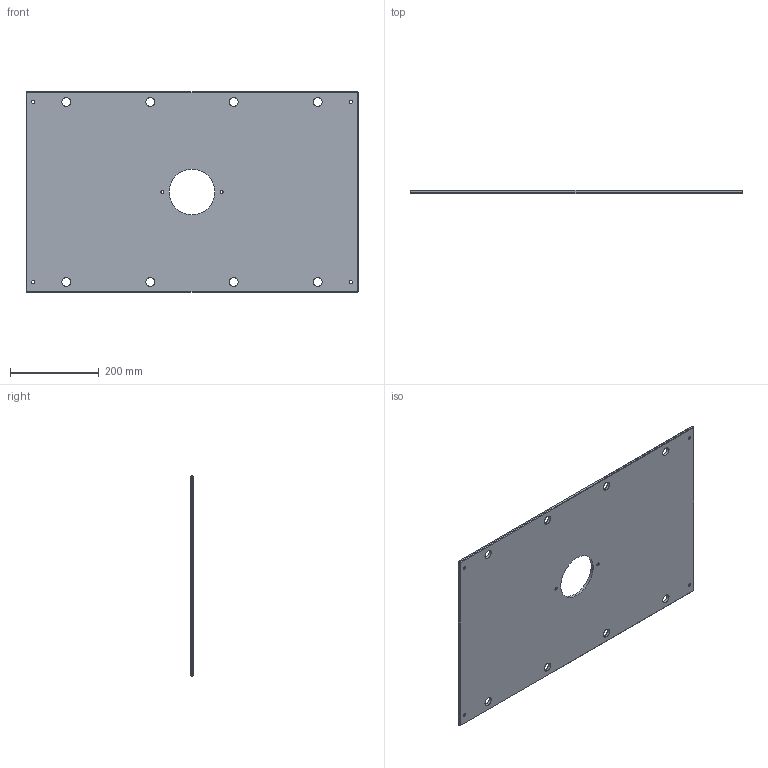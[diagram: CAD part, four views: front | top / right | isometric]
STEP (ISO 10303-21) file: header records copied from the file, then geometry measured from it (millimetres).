
FILE_DESCRIPTION (( 'STEP AP214' ), '1' );
FILE_NAME ('ME-0619-CH-1829.STEP', '2020-02-11T18:09:02', ( '' ), ( '' ), 'SwSTEP 2.0', 'SolidWorks 2018', '' );
FILE_SCHEMA (( 'AUTOMOTIVE_DESIGN' ));
Length unit declared in the file: inch
Products named in the file (1): ME-0619-CH-1829
Bounding box: 746.12 x 6.35 x 450.85 mm (x, y, z)
Volume: 2060675.1 mm3; surface area: 668186.3 mm2
Topology: 1 solids, 1 shells, 68 faces, 162 edges, 96 vertices
Faces by surface type: cylinder 30, plane 26, cone 12
Entity records: 2050 total; most frequent: DIRECTION 372, CARTESIAN_POINT 327, ORIENTED_EDGE 324, EDGE_CURVE 162, AXIS2_PLACEMENT_3D 141, EDGE_LOOP 98, VERTEX_POINT 96, VECTOR 90
